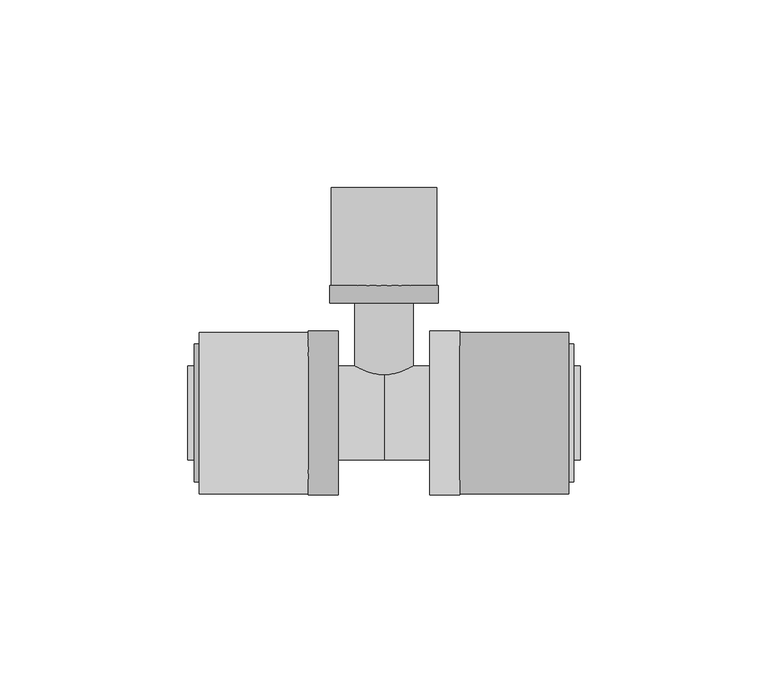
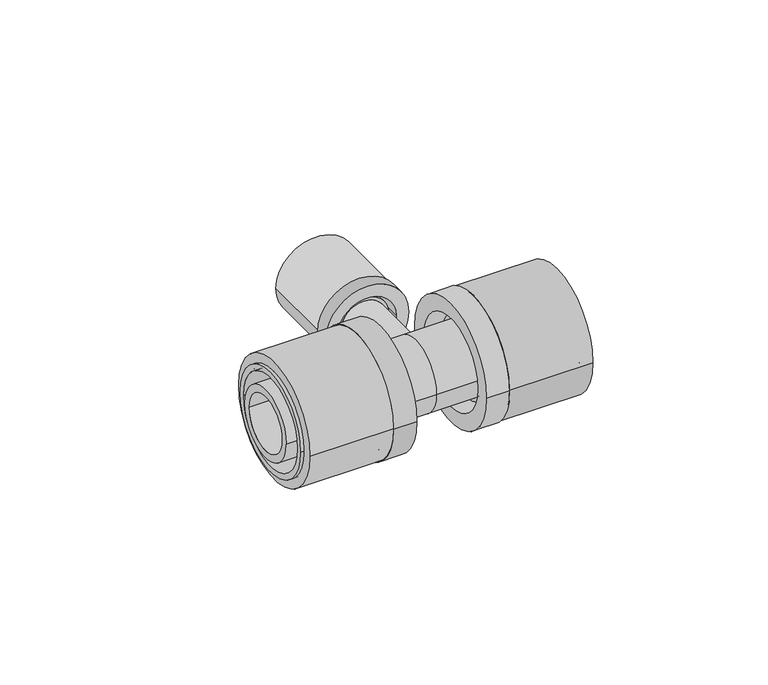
"""IFC4 building model written with IfcOpenShell, lengths in millimetres: pipe fitting geometry, FASTLOC_T-piece_LX : FSL T-Piece LX CZ."""

import ifcopenshell
import ifcopenshell.guid

model = None  # the IFC model being written
_history = None  # IfcOwnerHistory: only IFC2X3 demands one
_inside = {}  # id of a spatial element -> (the spatial element, [elements in it])
_under = {}  # id of a project, library or spatial element -> (it, [spatial elements below it])
_declared = {}  # id of a project -> (the project, [libraries it declares])
_typed = {}  # id of a type object -> (the type object, [elements of that type])
_made_of = {}  # id of a material, layer set ... -> (it, [elements and type objects made of it])


def new_model(schema):
    """Start an empty IFC model of exactly this schema.

    Asked for "IFC4X3", IfcOpenShell would pick the latest addendum, in which some entities
    have other attributes; the version numbers below select the first issue.
    IFC2X3 requires an IfcOwnerHistory on every rooted entity: one is made here for all.
    """
    global model, _history
    if schema == "IFC4X3":
        model = ifcopenshell.file(schema_version=(4, 3, 0, 0))
    else:
        model = ifcopenshell.file(schema=schema)
    _inside.clear()
    _under.clear()
    _declared.clear()
    _typed.clear()
    _made_of.clear()
    _history = None
    if model.schema == "IFC2X3":
        org = make("IfcOrganization", Name="unknown")
        user = make(
            "IfcPersonAndOrganization",
            ThePerson=make("IfcPerson", FamilyName="unknown"),
            TheOrganization=org,
        )
        app = make(
            "IfcApplication",
            ApplicationDeveloper=org,
            Version="unknown",
            ApplicationFullName="unknown",
            ApplicationIdentifier="unknown",
        )
        _history = make(
            "IfcOwnerHistory",
            OwningUser=user,
            OwningApplication=app,
            ChangeAction="ADDED",
            CreationDate=0,
        )
    return model


def make(cls, **values):
    """One entity of the class cls with the attributes given. An attribute that is None is left unset."""
    return model.create_entity(
        cls, **{name: value for name, value in values.items() if value is not None}
    )


def rooted(cls, **values):
    """An entity with a GlobalId (a new one), such as an element, a storey or a relation."""
    return make(cls, GlobalId=ifcopenshell.guid.new(), OwnerHistory=_history, **values)


def si_unit(unit_type, name, prefix=None):
    """IfcSIUnit, for example si_unit("LENGTHUNIT", "METRE", prefix="MILLI")."""
    return make("IfcSIUnit", UnitType=unit_type, Prefix=prefix, Name=name)


def assignment(units):
    """IfcUnitAssignment: the units of a project."""
    return None if units is None else make("IfcUnitAssignment", Units=units)


def point(xyz):
    """IfcCartesianPoint."""
    return None if xyz is None else make("IfcCartesianPoint", Coordinates=xyz)


def direction(xyz):
    """IfcDirection."""
    return None if xyz is None else make("IfcDirection", DirectionRatios=xyz)


def frame(location, z_axis=None, x_axis=None):
    """IfcAxis2Placement3D, a coordinate frame: its origin and axes. An axis left out is left unset."""
    return make(
        "IfcAxis2Placement3D",
        Location=point(location),
        Axis=direction(z_axis),
        RefDirection=direction(x_axis),
    )


def frame_2d(location, x_axis=None):
    """IfcAxis2Placement2D, a coordinate frame in the plane: its origin and x axis."""
    return make(
        "IfcAxis2Placement2D", Location=point(location), RefDirection=direction(x_axis)
    )


def origin():
    """The frame at (0, 0, 0) with its axes left unset."""
    return frame((0.0, 0.0, 0.0))


def origin_2d():
    """The frame at (0, 0) in the plane with its x axis left unset."""
    return frame_2d((0.0, 0.0))


def place(relative_to, where):
    """IfcLocalPlacement: puts the frame where relative to a parent placement (None: the world)."""
    return make(
        "IfcLocalPlacement", PlacementRelTo=relative_to, RelativePlacement=where
    )


def context(
    kind, dimensions, precision=None, world=None, true_north=None, identifier=None
):
    """IfcGeometricRepresentationContext, for example the 3D "Model" context."""
    return make(
        "IfcGeometricRepresentationContext",
        ContextIdentifier=identifier,
        ContextType=kind,
        CoordinateSpaceDimension=dimensions,
        Precision=precision,
        WorldCoordinateSystem=world,
        TrueNorth=true_north,
    )


def project(units=None, contexts=None):
    """IfcProject with its units and contexts."""
    return rooted(
        "IfcProject",
        Name="project",
        RepresentationContexts=contexts,
        UnitsInContext=assignment(units),
    )


def spatial(cls, under=None, at=None, **own):
    """A site, building, storey or space (cls), placed at a placement, below another one or the project."""
    s = rooted(cls, ObjectPlacement=at, **own)
    if under is not None:
        _under.setdefault(under.id(), (under, []))[1].append(s)
    return s


def polyline(points):
    """IfcPolyline through the points."""
    return make("IfcPolyline", Points=[point(p) for p in points])


def circle_curve(where, radius):
    """IfcCircle in the frame where."""
    return make("IfcCircle", Position=where, Radius=radius)


def trimmed(basis, trim1, trim2, sense, master):
    """IfcTrimmedCurve: the piece of a basis curve between two trims."""
    return make(
        "IfcTrimmedCurve",
        BasisCurve=basis,
        Trim1=trim1,
        Trim2=trim2,
        SenseAgreement=sense,
        MasterRepresentation=master,
    )


def segment(curve, same_sense, transition):
    """IfcCompositeCurveSegment."""
    return make(
        "IfcCompositeCurveSegment",
        Transition=transition,
        SameSense=same_sense,
        ParentCurve=curve,
    )


def composite_curve(segments, self_intersect=None):
    """IfcCompositeCurve: segments joined end to end."""
    return make("IfcCompositeCurve", Segments=segments, SelfIntersect=self_intersect)


def outline(outer, holes=None, kind="AREA"):
    """IfcArbitraryClosedProfileDef: a profile drawn as a closed curve; with holes, ...WithVoids."""
    if holes is None:
        return make("IfcArbitraryClosedProfileDef", ProfileType=kind, OuterCurve=outer)
    return make(
        "IfcArbitraryProfileDefWithVoids",
        ProfileType=kind,
        OuterCurve=outer,
        InnerCurves=holes,
    )


def extrude(swept, where, along, depth):
    """IfcExtrudedAreaSolid: the profile swept, set in the frame where, extruded along a direction by depth."""
    return make(
        "IfcExtrudedAreaSolid",
        SweptArea=swept,
        Position=where,
        ExtrudedDirection=direction(along),
        Depth=depth,
    )


def shape(context_of_items, identifier, shape_type, items):
    """IfcShapeRepresentation: the items that make up one representation, for example the "Body"."""
    return make(
        "IfcShapeRepresentation",
        ContextOfItems=context_of_items,
        RepresentationIdentifier=identifier,
        RepresentationType=shape_type,
        Items=items,
    )


def source(mapping_origin, context_of_items, identifier, shape_type, items):
    """IfcRepresentationMap: a shape defined once, which mapped items show again and again."""
    return make(
        "IfcRepresentationMap",
        MappingOrigin=mapping_origin,
        MappedRepresentation=shape(context_of_items, identifier, shape_type, items),
    )


def transform(
    local_origin,
    x_axis=None,
    y_axis=None,
    z_axis=None,
    scale=None,
    scale2=None,
    scale3=None,
    uniform=True,
):
    """IfcCartesianTransformationOperator3D, or its non-uniform kind. x_axis, y_axis, z_axis: its Axis1, 2, 3."""
    if uniform:
        return make(
            "IfcCartesianTransformationOperator3D",
            Axis1=direction(x_axis),
            Axis2=direction(y_axis),
            LocalOrigin=point(local_origin),
            Scale=scale,
            Axis3=direction(z_axis),
        )
    return make(
        "IfcCartesianTransformationOperator3DnonUniform",
        Axis1=direction(x_axis),
        Axis2=direction(y_axis),
        LocalOrigin=point(local_origin),
        Scale=scale,
        Axis3=direction(z_axis),
        Scale2=scale2,
        Scale3=scale3,
    )


def mapped(mapping_source, mapping_target):
    """IfcMappedItem: shows the shape of a source again, moved by a transform."""
    return make(
        "IfcMappedItem", MappingSource=mapping_source, MappingTarget=mapping_target
    )


def made_of(thing, what):
    """Note that an element or type object is made of a material, layer set ...; save() writes the relation."""
    if what is not None:
        _made_of.setdefault(what.id(), (what, []))[1].append(thing)
    return thing


def element(
    cls,
    number,
    at=None,
    inside=None,
    cuts=None,
    type_object=None,
    material=None,
    context=None,
    identifier="Body",
    shape_type=None,
    held_by="IfcProductDefinitionShape",
    body=None,
    shapes=None,
    **own,
):
    """One element of the class cls, such as IfcWall. Its Tag is "e" and its number.

    at: its placement. inside: the storey or other place that contains it. cuts: it is an
    opening in that element (IfcRelVoidsElement). A single representation is given by context,
    identifier, shape_type and body (its items); several are given by shapes. held_by: the class
    of the entity that holds the representations. save() writes the other relations.
    """
    e = rooted(cls, Tag="e%d" % number, ObjectPlacement=at, **own)
    if body is not None:
        shapes = [shape(context, identifier, shape_type, body)]
    if shapes is not None:
        e.Representation = make(held_by, Representations=shapes)
    if inside is not None:
        _inside.setdefault(inside.id(), (inside, []))[1].append(e)
    if cuts is not None:
        rooted(
            "IfcRelVoidsElement", RelatingBuildingElement=cuts, RelatedOpeningElement=e
        )
    if type_object is not None:
        _typed.setdefault(type_object.id(), (type_object, []))[1].append(e)
    return made_of(e, material)


def aggregate(whole, parts):
    """IfcRelAggregates: a whole, such as a stair, and the parts it consists of."""
    return rooted("IfcRelAggregates", RelatingObject=whole, RelatedObjects=parts)


def save(model, path):
    """Write the relations noted so far, then the file.

    IfcRelAggregates (storeys below a building ...), IfcRelContainedInSpatialStructure (elements
    in a storey), IfcRelDefinesByType, IfcRelAssociatesMaterial and IfcRelDeclares: one each for
    every whole, place, type object, material and project.
    """
    for whole, parts in _under.values():
        aggregate(whole, parts)
    for where, things in _inside.values():
        rooted(
            "IfcRelContainedInSpatialStructure",
            RelatedElements=things,
            RelatingStructure=where,
        )
    for kind, things in _typed.values():
        rooted("IfcRelDefinesByType", RelatedObjects=things, RelatingType=kind)
    for what, things in _made_of.values():
        rooted("IfcRelAssociatesMaterial", RelatedObjects=things, RelatingMaterial=what)
    for by, libraries in _declared.values():
        rooted("IfcRelDeclares", RelatingContext=by, RelatedDefinitions=libraries)
    model.write(path)


def plane_surface(at):
    """IfcPlane: the flat surface through the origin of the frame at, square to its z axis."""
    return make("IfcPlane", Position=at)


def cylinder_surface(at, radius):
    """IfcCylindricalSurface: all points at the distance radius from the z axis of the frame at."""
    return make("IfcCylindricalSurface", Position=at, Radius=radius)


def revolved_surface(curve, axis_point, axis_direction):
    """IfcSurfaceOfRevolution: the curve turned about the line through axis_point along axis_direction."""
    return make(
        "IfcSurfaceOfRevolution",
        SweptCurve=make("IfcArbitraryOpenProfileDef", ProfileType="CURVE", Curve=curve),
        AxisPosition=make("IfcAxis1Placement", Location=point(axis_point), Axis=direction(axis_direction)),
    )


def advanced_brep(points, edges, surfaces, faces):
    """IfcAdvancedBrep: a solid bounded by faces that lie on surfaces and meet in shared edges.

    An edge is (start, end): straight between two places in points (the first is 0);
    or (start, end, curve); or (start, end, curve, False) where it runs against its curve.
    A face is (place in surfaces, loops), or (place, loops, False) where it looks against
    its surface's normal. A loop lists edges by number (the first is 1), with a minus sign
    where the edge is run from its end to its start. The first loop is the outer one.
    """
    corners = [point(p) for p in points]
    vertices = [make("IfcVertexPoint", VertexGeometry=c) for c in corners]
    made = []
    for start, end, *more in edges:
        made.append(
            make(
                "IfcEdgeCurve",
                EdgeStart=vertices[start],
                EdgeEnd=vertices[end],
                EdgeGeometry=more[0] if more else make("IfcPolyline", Points=[corners[start], corners[end]]),
                SameSense=more[1] if len(more) > 1 else True,
            )
        )
    hull = []
    for where, loops, *sense in faces:
        bounds = []
        for j, loop in enumerate(loops):
            ring = [make("IfcOrientedEdge", EdgeElement=made[abs(k) - 1], Orientation=k > 0) for k in loop]
            bounds.append(
                make(
                    "IfcFaceOuterBound" if j == 0 else "IfcFaceBound",
                    Bound=make("IfcEdgeLoop", EdgeList=ring),
                    Orientation=True,
                )
            )
        hull.append(make("IfcAdvancedFace", Bounds=bounds, FaceSurface=surfaces[where], SameSense=sense[0] if sense else True))
    return make("IfcAdvancedBrep", Outer=make("IfcClosedShell", CfsFaces=hull))


def pipe_fitting_7435f538(model_context):
    return source(origin(), model_context, "Body", "SolidModel", [
        extrude(outline(composite_curve([segment(trimmed(circle_curve(origin_2d(), 21.5), [point((-21.5, 0.0))], [point((21.5, 0.0))], False, "CARTESIAN"), True, "CONTINUOUS"), segment(trimmed(circle_curve(origin_2d(), 21.5), [point((21.5, 0.0))], [point((-21.5, 0.0))], False, "CARTESIAN"), True, "CONTINUOUS")], self_intersect=False), holes=[composite_curve([segment(trimmed(circle_curve(origin_2d(), 16.85), [point((-16.85, 0.0))], [point((16.85, 0.0))], True, "CARTESIAN"), True, "CONTINUOUS"), segment(trimmed(circle_curve(origin_2d(), 16.85), [point((16.85, 0.0))], [point((-16.85, 0.0))], True, "CARTESIAN"), True, "CONTINUOUS")], self_intersect=False)]), frame((20.2, 0.0, 0.0), z_axis=(1.0, 0.0, 0.0), x_axis=(0.0, 1.0, 0.0)), (0.0, 0.0, 1.0), 29.0),
        advanced_brep(
        [(20.2, 21.8, 0.0), (20.2, -21.8, 0.0), (12.2, -21.8, 0.0), (12.2, 21.8, 0.0), (50.5, 18.35, 0.0), (50.5, -18.35, 0.0), (20.2, -18.35, 0.0), (20.2, 18.35, 0.0), (12.2, 16.2, 0.0), (12.2, -16.2, 0.0), (50.5, -16.2, 0.0), (50.5, 16.2, 0.0)],
        [
            (0, 1, circle_curve(frame((20.2, 0.0, 0.0), z_axis=(-1.0, 0.0, 0.0), x_axis=(0.0, -1.0, 0.0)), 21.8)),
            (1, 2),
            (2, 3, circle_curve(frame((12.2, 0.0, 0.0), z_axis=(1.0, 0.0, 0.0), x_axis=(0.0, -1.0, 0.0)), 21.8)),
            (3, 0),
            (4, 5, circle_curve(frame((50.5, 0.0, 0.0), z_axis=(-1.0, 0.0, 0.0), x_axis=(0.0, -1.0, 0.0)), 18.35)),
            (5, 6),
            (6, 7, circle_curve(frame((20.2, 0.0, 0.0), z_axis=(1.0, 0.0, 0.0), x_axis=(0.0, -1.0, 0.0)), 18.35)),
            (7, 4),
            (8, 9, circle_curve(frame((12.2, 0.0, 0.0), z_axis=(-1.0, 0.0, 0.0), x_axis=(0.0, -1.0, 0.0)), 16.2)),
            (9, 10),
            (10, 11, circle_curve(frame((50.5, 0.0, 0.0), z_axis=(1.0, 0.0, 0.0), x_axis=(0.0, -1.0, 0.0)), 16.2)),
            (11, 8),
            (1, 0, circle_curve(frame((20.2, 0.0, 0.0), z_axis=(-1.0, 0.0, 0.0), x_axis=(0.0, 1.0, 0.0)), 21.8)),
            (3, 2, circle_curve(frame((12.2, 0.0, 0.0), z_axis=(1.0, 0.0, 0.0), x_axis=(0.0, 1.0, 0.0)), 21.8)),
            (6, 7, circle_curve(frame((20.2, 0.0, 0.0), z_axis=(-1.0, 0.0, 0.0), x_axis=(0.0, 1.0, 0.0)), 18.35)),
            (5, 4, circle_curve(frame((50.5, 0.0, 0.0), z_axis=(-1.0, 0.0, 0.0), x_axis=(0.0, 1.0, 0.0)), 18.35)),
            (10, 11, circle_curve(frame((50.5, 0.0, 0.0), z_axis=(-1.0, 0.0, 0.0), x_axis=(0.0, 1.0, 0.0)), 16.2)),
            (9, 8, circle_curve(frame((12.2, 0.0, 0.0), z_axis=(-1.0, 0.0, 0.0), x_axis=(0.0, 1.0, 0.0)), 16.2)),
        ],
        [
            cylinder_surface(frame((12.2, 0.0, 0.0), z_axis=(1.0, 0.0, 0.0), x_axis=(0.0, -1.0, 0.0)), 21.8),
            cylinder_surface(frame((12.2, 0.0, 0.0), z_axis=(1.0, 0.0, 0.0), x_axis=(0.0, -1.0, 0.0)), 18.35),
            revolved_surface(polyline([(50.5, -16.2, 0.0), (12.2, -16.2, 0.0)]), (12.2, 0.0, 0.0), (1.0, 0.0, 0.0)),
            cylinder_surface(frame((12.2, 0.0, 0.0), z_axis=(1.0, 0.0, 0.0), x_axis=(0.0, 1.0, 0.0)), 21.8),
            plane_surface(frame((20.2, 0.0, 0.0), z_axis=(1.0, 0.0, 0.0), x_axis=(0.0, 1.0, 0.0))),
            cylinder_surface(frame((12.2, 0.0, 0.0), z_axis=(1.0, 0.0, 0.0), x_axis=(0.0, 1.0, 0.0)), 18.35),
            plane_surface(frame((50.5, 0.0, 0.0), z_axis=(1.0, 0.0, 0.0), x_axis=(0.0, 1.0, 0.0))),
            revolved_surface(polyline([(50.5, 16.2, 0.0), (12.2, 16.2, 0.0)]), (12.2, 0.0, 0.0), (1.0, 0.0, 0.0)),
            plane_surface(frame((12.2, 0.0, 0.0), z_axis=(-1.0, 0.0, 0.0), x_axis=(0.0, 1.0, 0.0))),
        ],
        [
            (0, [[1, 2, 3, 4]]),
            (1, [[5, 6, 7, 8]]),
            (2, [[9, 10, 11, 12]]),
            (3, [[13, -4, 14, -2]]),
            (4, [[-13, -1], [15, -7]]),
            (5, [[16, -8, -15, -6]]),
            (6, [[-16, -5], [17, -11]]),
            (7, [[18, -12, -17, -10]]),
            (8, [[-14, -3], [-18, -9]]),
        ],
    ),
        extrude(outline(composite_curve([segment(trimmed(circle_curve(origin_2d(), 21.5), [point((21.5, 0.0))], [point((-21.5, 0.0))], False, "CARTESIAN"), True, "CONTINUOUS"), segment(trimmed(circle_curve(origin_2d(), 21.5), [point((-21.5, 0.0))], [point((21.5, 0.0))], False, "CARTESIAN"), True, "CONTINUOUS")], self_intersect=False), holes=[composite_curve([segment(trimmed(circle_curve(origin_2d(), 16.85), [point((16.85, 0.0))], [point((-16.85, 0.0))], True, "CARTESIAN"), True, "CONTINUOUS"), segment(trimmed(circle_curve(origin_2d(), 16.85), [point((-16.85, 0.0))], [point((16.85, 0.0))], True, "CARTESIAN"), True, "CONTINUOUS")], self_intersect=False)]), frame((-49.2, 0.0, 0.0), z_axis=(1.0, 0.0, 0.0), x_axis=(0.0, 1.0, 0.0)), (0.0, 0.0, 1.0), 29.0),
        advanced_brep(
        [(-20.2, -21.8, 0.0), (-20.2, 21.8, 0.0), (-12.2, 21.8, 0.0), (-12.2, -21.8, 0.0), (-50.5, -18.35, 0.0), (-50.5, 18.35, 0.0), (-20.2, 18.35, 0.0), (-20.2, -18.35, 0.0), (-12.2, -16.2, 0.0), (-12.2, 16.2, 0.0), (-50.5, 16.2, 0.0), (-50.5, -16.2, 0.0)],
        [
            (0, 1, circle_curve(frame((-20.2, 0.0, 0.0), z_axis=(1.0, 0.0, 0.0), x_axis=(0.0, 1.0, 0.0)), 21.8)),
            (1, 2),
            (2, 3, circle_curve(frame((-12.2, 0.0, 0.0), z_axis=(-1.0, 0.0, 0.0), x_axis=(0.0, 1.0, 0.0)), 21.8)),
            (3, 0),
            (4, 5, circle_curve(frame((-50.5, 0.0, 0.0), z_axis=(1.0, 0.0, 0.0), x_axis=(0.0, 1.0, 0.0)), 18.35)),
            (5, 6),
            (6, 7, circle_curve(frame((-20.2, 0.0, 0.0), z_axis=(-1.0, 0.0, 0.0), x_axis=(0.0, 1.0, 0.0)), 18.35)),
            (7, 4),
            (8, 9, circle_curve(frame((-12.2, 0.0, 0.0), z_axis=(1.0, 0.0, 0.0), x_axis=(0.0, 1.0, 0.0)), 16.2)),
            (9, 10),
            (10, 11, circle_curve(frame((-50.5, 0.0, 0.0), z_axis=(-1.0, 0.0, 0.0), x_axis=(0.0, 1.0, 0.0)), 16.2)),
            (11, 8),
            (1, 0, circle_curve(frame((-20.2, 0.0, 0.0), z_axis=(1.0, 0.0, 0.0), x_axis=(0.0, -1.0, 0.0)), 21.8)),
            (3, 2, circle_curve(frame((-12.2, 0.0, 0.0), z_axis=(-1.0, 0.0, 0.0), x_axis=(0.0, -1.0, 0.0)), 21.8)),
            (6, 7, circle_curve(frame((-20.2, 0.0, 0.0), z_axis=(1.0, 0.0, 0.0), x_axis=(0.0, -1.0, 0.0)), 18.35)),
            (5, 4, circle_curve(frame((-50.5, 0.0, 0.0), z_axis=(1.0, 0.0, 0.0), x_axis=(0.0, -1.0, 0.0)), 18.35)),
            (10, 11, circle_curve(frame((-50.5, 0.0, 0.0), z_axis=(1.0, 0.0, 0.0), x_axis=(0.0, -1.0, 0.0)), 16.2)),
            (9, 8, circle_curve(frame((-12.2, 0.0, 0.0), z_axis=(1.0, 0.0, 0.0), x_axis=(0.0, -1.0, 0.0)), 16.2)),
        ],
        [
            cylinder_surface(frame((-12.2, 0.0, 0.0), z_axis=(-1.0, 0.0, 0.0), x_axis=(0.0, 1.0, 0.0)), 21.8),
            cylinder_surface(frame((-12.2, 0.0, 0.0), z_axis=(-1.0, 0.0, 0.0), x_axis=(0.0, 1.0, 0.0)), 18.35),
            revolved_surface(polyline([(-50.5, 16.2, 0.0), (-12.2, 16.2, 0.0)]), (-12.2, 0.0, 0.0), (-1.0, 0.0, 0.0)),
            cylinder_surface(frame((-12.2, 0.0, 0.0), z_axis=(-1.0, 0.0, 0.0), x_axis=(0.0, -1.0, 0.0)), 21.8),
            plane_surface(frame((-20.2, 0.0, 0.0), z_axis=(-1.0, 0.0, 0.0), x_axis=(0.0, -1.0, 0.0))),
            cylinder_surface(frame((-12.2, 0.0, 0.0), z_axis=(-1.0, 0.0, 0.0), x_axis=(0.0, -1.0, 0.0)), 18.35),
            plane_surface(frame((-50.5, 0.0, 0.0), z_axis=(-1.0, 0.0, 0.0), x_axis=(0.0, -1.0, 0.0))),
            revolved_surface(polyline([(-50.5, -16.2, 0.0), (-12.2, -16.2, 0.0)]), (-12.2, 0.0, 0.0), (-1.0, 0.0, 0.0)),
            plane_surface(frame((-12.2, 0.0, 0.0), z_axis=(1.0, 0.0, 0.0), x_axis=(0.0, -1.0, 0.0))),
        ],
        [
            (0, [[1, 2, 3, 4]]),
            (1, [[5, 6, 7, 8]]),
            (2, [[9, 10, 11, 12]]),
            (3, [[13, -4, 14, -2]]),
            (4, [[-13, -1], [15, -7]]),
            (5, [[16, -8, -15, -6]]),
            (6, [[-16, -5], [17, -11]]),
            (7, [[18, -12, -17, -10]]),
            (8, [[-14, -3], [-18, -9]]),
        ],
    ),
        extrude(outline(composite_curve([segment(trimmed(circle_curve(origin_2d(), 14.0), [point((0.0, 14.0))], [point((0.0, -14.0))], False, "CARTESIAN"), True, "CONTINUOUS"), segment(trimmed(circle_curve(origin_2d(), 14.0), [point((0.0, -14.0))], [point((0.0, 14.0))], False, "CARTESIAN"), True, "CONTINUOUS")], self_intersect=False), holes=[composite_curve([segment(trimmed(circle_curve(origin_2d(), 10.7), [point((0.0, 10.7))], [point((0.0, -10.7))], True, "CARTESIAN"), True, "CONTINUOUS"), segment(trimmed(circle_curve(origin_2d(), 10.7), [point((0.0, -10.7))], [point((0.0, 10.7))], True, "CARTESIAN"), True, "CONTINUOUS")], self_intersect=False)]), frame((0.0, 34.0, 0.0), z_axis=(0.0, 1.0, 0.0), x_axis=(0.0, 0.0, 1.0)), (0.0, 0.0, 1.0), 26.0),
        advanced_brep(
        [(-14.5, 34.0, 0.0), (14.5, 34.0, 0.0), (14.5, 29.3, 0.0), (-14.5, 29.3, 0.0), (-11.85, 51.0, 0.0), (11.85, 51.0, 0.0), (11.85, 34.0, 0.0), (-11.85, 34.0, 0.0), (-10.15, 29.3, 0.0), (10.15, 29.3, 0.0), (10.15, 51.0, 0.0), (-10.15, 51.0, 0.0)],
        [
            (0, 1, circle_curve(frame((0.0, 34.0, 0.0), z_axis=(0.0, -1.0, 0.0), x_axis=(1.0, 0.0, 0.0)), 14.5)),
            (1, 2),
            (2, 3, circle_curve(frame((0.0, 29.3, 0.0), z_axis=(0.0, 1.0, 0.0), x_axis=(1.0, 0.0, 0.0)), 14.5)),
            (3, 0),
            (4, 5, circle_curve(frame((0.0, 51.0, 0.0), z_axis=(0.0, -1.0, 0.0), x_axis=(1.0, 0.0, 0.0)), 11.85)),
            (5, 6),
            (6, 7, circle_curve(frame((0.0, 34.0, 0.0), z_axis=(0.0, 1.0, 0.0), x_axis=(1.0, 0.0, 0.0)), 11.85)),
            (7, 4),
            (8, 9, circle_curve(frame((0.0, 29.3, 0.0), z_axis=(0.0, -1.0, 0.0), x_axis=(1.0, 0.0, 0.0)), 10.15)),
            (9, 10),
            (10, 11, circle_curve(frame((0.0, 51.0, 0.0), z_axis=(0.0, 1.0, 0.0), x_axis=(1.0, 0.0, 0.0)), 10.15)),
            (11, 8),
            (1, 0, circle_curve(frame((0.0, 34.0, 0.0), z_axis=(0.0, -1.0, 0.0), x_axis=(-1.0, 0.0, 0.0)), 14.5)),
            (3, 2, circle_curve(frame((0.0, 29.3, 0.0), z_axis=(0.0, 1.0, 0.0), x_axis=(-1.0, 0.0, 0.0)), 14.5)),
            (6, 7, circle_curve(frame((0.0, 34.0, 0.0), z_axis=(0.0, -1.0, 0.0), x_axis=(-1.0, 0.0, 0.0)), 11.85)),
            (5, 4, circle_curve(frame((0.0, 51.0, 0.0), z_axis=(0.0, -1.0, 0.0), x_axis=(-1.0, 0.0, 0.0)), 11.85)),
            (10, 11, circle_curve(frame((0.0, 51.0, 0.0), z_axis=(0.0, -1.0, 0.0), x_axis=(-1.0, 0.0, 0.0)), 10.15)),
            (9, 8, circle_curve(frame((0.0, 29.3, 0.0), z_axis=(0.0, -1.0, 0.0), x_axis=(-1.0, 0.0, 0.0)), 10.15)),
        ],
        [
            cylinder_surface(frame((0.0, 29.3, 0.0), z_axis=(0.0, 1.0, 0.0), x_axis=(1.0, 0.0, 0.0)), 14.5),
            cylinder_surface(frame((0.0, 29.3, 0.0), z_axis=(0.0, 1.0, 0.0), x_axis=(1.0, 0.0, 0.0)), 11.85),
            revolved_surface(polyline([(10.15, 51.0, 0.0), (10.15, 29.3, 0.0)]), (0.0, 29.3, 0.0), (0.0, 1.0, 0.0)),
            cylinder_surface(frame((0.0, 29.3, 0.0), z_axis=(0.0, 1.0, 0.0), x_axis=(-1.0, 0.0, 0.0)), 14.5),
            plane_surface(frame((0.0, 34.0, 0.0), z_axis=(0.0, 1.0, 0.0), x_axis=(-1.0, 0.0, 0.0))),
            cylinder_surface(frame((0.0, 29.3, 0.0), z_axis=(0.0, 1.0, 0.0), x_axis=(-1.0, 0.0, 0.0)), 11.85),
            plane_surface(frame((0.0, 51.0, 0.0), z_axis=(0.0, 1.0, 0.0), x_axis=(-1.0, 0.0, 0.0))),
            revolved_surface(polyline([(-10.15, 51.0, 0.0), (-10.15, 29.3, 0.0)]), (0.0, 29.3, 0.0), (0.0, 1.0, 0.0)),
            plane_surface(frame((0.0, 29.3, 0.0), z_axis=(0.0, -1.0, 0.0), x_axis=(-1.0, 0.0, 0.0))),
        ],
        [
            (0, [[1, 2, 3, 4]]),
            (1, [[5, 6, 7, 8]]),
            (2, [[9, 10, 11, 12]]),
            (3, [[13, -4, 14, -2]]),
            (4, [[-13, -1], [15, -7]]),
            (5, [[16, -8, -15, -6]]),
            (6, [[-16, -5], [17, -11]]),
            (7, [[18, -12, -17, -10]]),
            (8, [[-14, -3], [-18, -9]]),
        ],
    ),
        advanced_brep(
        [(0.0, 12.5, 0.0), (0.0, -12.5, 0.0), (-17.2, -12.5, 0.0), (-17.2, 12.5, 0.0), (17.2, 12.5, 0.0), (17.2, -12.5, 0.0), (20.2, 14.1, 0.0), (20.2, -14.1, 0.0), (17.2, -14.1, 0.0), (17.2, 14.1, 0.0), (52.2, 12.5, 0.0), (52.2, -12.5, 0.0), (20.2, -12.5, 0.0), (20.2, 12.5, 0.0), (-20.2, 12.5, 0.0), (-20.2, -12.5, 0.0), (-52.2, -12.5, 0.0), (-52.2, 12.5, 0.0), (-17.2, 16.0, 0.0), (-17.2, -16.0, 0.0), (-20.2, -16.0, 0.0), (-20.2, 16.0, 0.0), (52.2, -9.85, 0.0), (52.2, 9.85, 0.0), (-52.2, 9.85, 0.0), (-52.2, -9.85, 0.0), (0.0, 9.85, 0.0), (0.0, -9.85, 0.0)],
        [
            (0, 1, circle_curve(frame((0.0, 0.0, 0.0), z_axis=(-1.0, 0.0, 0.0), x_axis=(0.0, -1.0, 0.0)), 12.5)),
            (1, 2),
            (2, 3, circle_curve(frame((-17.2, 0.0, 0.0), z_axis=(1.0, 0.0, 0.0), x_axis=(0.0, -1.0, 0.0)), 12.5)),
            (3, 0),
            (4, 5, circle_curve(frame((17.2, 0.0, 0.0), z_axis=(-1.0, 0.0, 0.0), x_axis=(0.0, -1.0, 0.0)), 12.5)),
            (5, 1),
            (0, 4),
            (6, 7, circle_curve(frame((20.2, 0.0, 0.0), z_axis=(-1.0, 0.0, 0.0), x_axis=(0.0, -1.0, 0.0)), 14.1)),
            (7, 8),
            (8, 9, circle_curve(frame((17.2, 0.0, 0.0), z_axis=(1.0, 0.0, 0.0), x_axis=(0.0, -1.0, 0.0)), 14.1)),
            (9, 6),
            (10, 11, circle_curve(frame((52.2, 0.0, 0.0), z_axis=(-1.0, 0.0, 0.0), x_axis=(0.0, -1.0, 0.0)), 12.5)),
            (11, 12),
            (12, 13, circle_curve(frame((20.2, 0.0, 0.0), z_axis=(1.0, 0.0, 0.0), x_axis=(0.0, -1.0, 0.0)), 12.5)),
            (13, 10),
            (14, 15, circle_curve(frame((-20.2, 0.0, 0.0), z_axis=(-1.0, 0.0, 0.0), x_axis=(0.0, -1.0, 0.0)), 12.5)),
            (15, 16),
            (16, 17, circle_curve(frame((-52.2, 0.0, 0.0), z_axis=(1.0, 0.0, 0.0), x_axis=(0.0, -1.0, 0.0)), 12.5)),
            (17, 14),
            (18, 19, circle_curve(frame((-17.2, 0.0, 0.0), z_axis=(-1.0, 0.0, 0.0), x_axis=(0.0, -1.0, 0.0)), 16.0)),
            (19, 20),
            (20, 21, circle_curve(frame((-20.2, 0.0, 0.0), z_axis=(1.0, 0.0, 0.0), x_axis=(0.0, -1.0, 0.0)), 16.0)),
            (21, 18),
            (18, 19, circle_curve(frame((-17.2, 0.0, 0.0), z_axis=(1.0, 0.0, 0.0), x_axis=(0.0, 1.0, 0.0)), 16.0)),
            (2, 3, circle_curve(frame((-17.2, 0.0, 0.0), z_axis=(-1.0, 0.0, 0.0), x_axis=(0.0, 1.0, 0.0)), 12.5)),
            (1, 0, circle_curve(frame((0.0, 0.0, 0.0), z_axis=(-1.0, 0.0, 0.0), x_axis=(0.0, 1.0, 0.0)), 12.5)),
            (5, 4, circle_curve(frame((17.2, 0.0, 0.0), z_axis=(-1.0, 0.0, 0.0), x_axis=(0.0, 1.0, 0.0)), 12.5)),
            (8, 9, circle_curve(frame((17.2, 0.0, 0.0), z_axis=(-1.0, 0.0, 0.0), x_axis=(0.0, 1.0, 0.0)), 14.1)),
            (7, 6, circle_curve(frame((20.2, 0.0, 0.0), z_axis=(-1.0, 0.0, 0.0), x_axis=(0.0, 1.0, 0.0)), 14.1)),
            (12, 13, circle_curve(frame((20.2, 0.0, 0.0), z_axis=(-1.0, 0.0, 0.0), x_axis=(0.0, 1.0, 0.0)), 12.5)),
            (11, 10, circle_curve(frame((52.2, 0.0, 0.0), z_axis=(-1.0, 0.0, 0.0), x_axis=(0.0, 1.0, 0.0)), 12.5)),
            (22, 23, circle_curve(frame((52.2, 0.0, 0.0), z_axis=(-1.0, 0.0, 0.0), x_axis=(0.0, 1.0, 0.0)), 9.85)),
            (23, 22, circle_curve(frame((52.2, 0.0, 0.0), z_axis=(-1.0, 0.0, 0.0), x_axis=(0.0, -1.0, 0.0)), 9.85)),
            (16, 17, circle_curve(frame((-52.2, 0.0, 0.0), z_axis=(-1.0, 0.0, 0.0), x_axis=(0.0, 1.0, 0.0)), 12.5)),
            (24, 25, circle_curve(frame((-52.2, 0.0, 0.0), z_axis=(1.0, 0.0, 0.0), x_axis=(0.0, 1.0, 0.0)), 9.85)),
            (25, 24, circle_curve(frame((-52.2, 0.0, 0.0), z_axis=(1.0, 0.0, 0.0), x_axis=(0.0, -1.0, 0.0)), 9.85)),
            (15, 14, circle_curve(frame((-20.2, 0.0, 0.0), z_axis=(-1.0, 0.0, 0.0), x_axis=(0.0, 1.0, 0.0)), 12.5)),
            (20, 21, circle_curve(frame((-20.2, 0.0, 0.0), z_axis=(-1.0, 0.0, 0.0), x_axis=(0.0, 1.0, 0.0)), 16.0)),
            (26, 27, circle_curve(frame((0.0, 0.0, 0.0), z_axis=(-1.0, 0.0, 0.0), x_axis=(0.0, -1.0, 0.0)), 9.85)),
            (27, 22),
            (23, 26),
            (25, 27),
            (26, 24),
            (27, 26, circle_curve(frame((0.0, 0.0, 0.0), z_axis=(-1.0, 0.0, 0.0), x_axis=(0.0, 1.0, 0.0)), 9.85)),
        ],
        [
            cylinder_surface(frame((0.0, 0.0, 0.0), z_axis=(1.0, 0.0, 0.0), x_axis=(0.0, -1.0, 0.0)), 12.5),
            cylinder_surface(frame((0.0, 0.0, 0.0), z_axis=(1.0, 0.0, 0.0), x_axis=(0.0, -1.0, 0.0)), 14.1),
            cylinder_surface(frame((0.0, 0.0, 0.0), z_axis=(1.0, 0.0, 0.0), x_axis=(0.0, -1.0, 0.0)), 16.0),
            plane_surface(frame((-17.2, 0.0, 0.0), z_axis=(1.0, 0.0, 0.0), x_axis=(0.0, 1.0, 0.0))),
            cylinder_surface(frame((0.0, 0.0, 0.0), z_axis=(1.0, 0.0, 0.0), x_axis=(0.0, 1.0, 0.0)), 12.5),
            plane_surface(frame((17.2, 0.0, 0.0), z_axis=(-1.0, 0.0, 0.0), x_axis=(0.0, 1.0, 0.0))),
            cylinder_surface(frame((0.0, 0.0, 0.0), z_axis=(1.0, 0.0, 0.0), x_axis=(0.0, 1.0, 0.0)), 14.1),
            plane_surface(frame((20.2, 0.0, 0.0), z_axis=(1.0, 0.0, 0.0), x_axis=(0.0, 1.0, 0.0))),
            plane_surface(frame((52.2, 0.0, 0.0), z_axis=(1.0, 0.0, 0.0), x_axis=(0.0, 1.0, 0.0))),
            plane_surface(frame((-52.2, 0.0, 0.0), z_axis=(-1.0, 0.0, 0.0), x_axis=(0.0, 1.0, 0.0))),
            plane_surface(frame((-20.2, 0.0, 0.0), z_axis=(-1.0, 0.0, 0.0), x_axis=(0.0, 1.0, 0.0))),
            cylinder_surface(frame((0.0, 0.0, 0.0), z_axis=(1.0, 0.0, 0.0), x_axis=(0.0, 1.0, 0.0)), 16.0),
            revolved_surface(polyline([(52.2, -9.85, 0.0), (0.0, -9.85, 0.0)]), (0.0, 0.0, 0.0), (1.0, 0.0, 0.0)),
            revolved_surface(polyline([(0.0, -9.85, 0.0), (-52.2, -9.85, 0.0)]), (0.0, 0.0, 0.0), (1.0, 0.0, 0.0)),
            revolved_surface(polyline([(52.2, 9.85, 0.0), (0.0, 9.85, 0.0)]), (0.0, 0.0, 0.0), (1.0, 0.0, 0.0)),
            revolved_surface(polyline([(0.0, 9.85, 0.0), (-52.2, 9.85, 0.0)]), (0.0, 0.0, 0.0), (1.0, 0.0, 0.0)),
        ],
        [
            (0, [[1, 2, 3, 4]]),
            (0, [[5, 6, -1, 7]]),
            (1, [[8, 9, 10, 11]]),
            (0, [[12, 13, 14, 15]]),
            (0, [[16, 17, 18, 19]]),
            (2, [[20, 21, 22, 23]]),
            (3, [[24, -20], [25, -3]]),
            (4, [[26, -4, -25, -2]]),
            (4, [[27, -7, -26, -6]]),
            (5, [[28, -10], [-27, -5]]),
            (6, [[29, -11, -28, -9]]),
            (7, [[-29, -8], [30, -14]]),
            (4, [[31, -15, -30, -13]]),
            (8, [[-31, -12], [32, 33]]),
            (9, [[34, -18], [35, 36]]),
            (4, [[37, -19, -34, -17]]),
            (10, [[38, -22], [-37, -16]]),
            (11, [[-24, -23, -38, -21]]),
            (12, [[39, 40, -33, 41]]),
            (13, [[-36, 42, -39, 43]]),
            (14, [[44, -41, -32, -40]]),
            (15, [[-35, -43, -44, -42]]),
        ],
    ),
        advanced_brep(
        [(5.75, 51.4, 0.0), (-5.75, 51.4, 0.0), (-5.75, 0.0, 0.0), (5.75, 0.0, 0.0), (7.75, 0.0, 0.0), (-7.75, 0.0, 0.0), (-7.75, 31.33, 0.0), (7.75, 31.33, 0.0), (8.8, 31.33, 0.0), (-8.8, 31.33, 0.0), (-8.8, 34.0, 0.0), (8.8, 34.0, 0.0), (7.75, 34.0, 0.0), (-7.75, 34.0, 0.0), (-7.75, 51.4, 0.0), (7.75, 51.4, 0.0)],
        [
            (0, 1, circle_curve(frame((0.0, 51.4, 0.0), z_axis=(0.0, 1.0, 0.0), x_axis=(-1.0, 0.0, 0.0)), 5.75)),
            (1, 2),
            (2, 3, circle_curve(frame((0.0, 0.0, 0.0), z_axis=(0.0, -1.0, 0.0), x_axis=(-1.0, 0.0, 0.0)), 5.75)),
            (3, 0),
            (4, 5, circle_curve(frame((0.0, 0.0, 0.0), z_axis=(0.0, 1.0, 0.0), x_axis=(-1.0, 0.0, 0.0)), 7.75)),
            (5, 6),
            (6, 7, circle_curve(frame((0.0, 31.33, 0.0), z_axis=(0.0, -1.0, 0.0), x_axis=(-1.0, 0.0, 0.0)), 7.75)),
            (7, 4),
            (8, 9, circle_curve(frame((0.0, 31.33, 0.0), z_axis=(0.0, 1.0, 0.0), x_axis=(-1.0, 0.0, 0.0)), 8.8)),
            (9, 10),
            (10, 11, circle_curve(frame((0.0, 34.0, 0.0), z_axis=(0.0, -1.0, 0.0), x_axis=(-1.0, 0.0, 0.0)), 8.8)),
            (11, 8),
            (12, 13, circle_curve(frame((0.0, 34.0, 0.0), z_axis=(0.0, 1.0, 0.0), x_axis=(-1.0, 0.0, 0.0)), 7.75)),
            (13, 14),
            (14, 15, circle_curve(frame((0.0, 51.4, 0.0), z_axis=(0.0, -1.0, 0.0), x_axis=(-1.0, 0.0, 0.0)), 7.75)),
            (15, 12),
            (1, 0, circle_curve(frame((0.0, 51.4, 0.0), z_axis=(0.0, 1.0, 0.0), x_axis=(1.0, 0.0, 0.0)), 5.75)),
            (3, 2, circle_curve(frame((0.0, 0.0, 0.0), z_axis=(0.0, -1.0, 0.0), x_axis=(1.0, 0.0, 0.0)), 5.75)),
            (4, 5, circle_curve(frame((0.0, 0.0, 0.0), z_axis=(0.0, -1.0, 0.0), x_axis=(1.0, 0.0, 0.0)), 7.75)),
            (7, 6, circle_curve(frame((0.0, 31.33, 0.0), z_axis=(0.0, -1.0, 0.0), x_axis=(1.0, 0.0, 0.0)), 7.75)),
            (8, 9, circle_curve(frame((0.0, 31.33, 0.0), z_axis=(0.0, -1.0, 0.0), x_axis=(1.0, 0.0, 0.0)), 8.8)),
            (11, 10, circle_curve(frame((0.0, 34.0, 0.0), z_axis=(0.0, -1.0, 0.0), x_axis=(1.0, 0.0, 0.0)), 8.8)),
            (12, 13, circle_curve(frame((0.0, 34.0, 0.0), z_axis=(0.0, -1.0, 0.0), x_axis=(1.0, 0.0, 0.0)), 7.75)),
            (15, 14, circle_curve(frame((0.0, 51.4, 0.0), z_axis=(0.0, -1.0, 0.0), x_axis=(1.0, 0.0, 0.0)), 7.75)),
        ],
        [
            revolved_surface(polyline([(-5.75, 0.0, 0.0), (-5.75, 51.4, 0.0)]), (0.0, 0.0, 0.0), (0.0, -1.0, 0.0)),
            cylinder_surface(frame((0.0, 0.0, 0.0), z_axis=(0.0, -1.0, 0.0), x_axis=(-1.0, 0.0, 0.0)), 7.75),
            cylinder_surface(frame((0.0, 0.0, 0.0), z_axis=(0.0, -1.0, 0.0), x_axis=(-1.0, 0.0, 0.0)), 8.8),
            revolved_surface(polyline([(5.75, 0.0, 0.0), (5.75, 51.4, 0.0)]), (0.0, 0.0, 0.0), (0.0, -1.0, 0.0)),
            plane_surface(frame((0.0, 0.0, 0.0), z_axis=(0.0, -1.0, 0.0), x_axis=(1.0, 0.0, 0.0))),
            cylinder_surface(frame((0.0, 0.0, 0.0), z_axis=(0.0, -1.0, 0.0), x_axis=(1.0, 0.0, 0.0)), 7.75),
            plane_surface(frame((0.0, 31.33, 0.0), z_axis=(0.0, -1.0, 0.0), x_axis=(1.0, 0.0, 0.0))),
            cylinder_surface(frame((0.0, 0.0, 0.0), z_axis=(0.0, -1.0, 0.0), x_axis=(1.0, 0.0, 0.0)), 8.8),
            plane_surface(frame((0.0, 34.0, 0.0), z_axis=(0.0, 1.0, 0.0), x_axis=(1.0, 0.0, 0.0))),
            plane_surface(frame((0.0, 51.4, 0.0), z_axis=(0.0, 1.0, 0.0), x_axis=(1.0, 0.0, 0.0))),
        ],
        [
            (0, [[1, 2, 3, 4]]),
            (1, [[5, 6, 7, 8]]),
            (2, [[9, 10, 11, 12]]),
            (1, [[13, 14, 15, 16]]),
            (3, [[17, -4, 18, -2]]),
            (4, [[19, -5], [-18, -3]]),
            (5, [[-19, -8, 20, -6]]),
            (6, [[21, -9], [-20, -7]]),
            (7, [[-21, -12, 22, -10]]),
            (8, [[-22, -11], [23, -13]]),
            (5, [[-23, -16, 24, -14]]),
            (9, [[-24, -15], [-17, -1]]),
        ],
    ),
    ])


if __name__ == "__main__":
    model = new_model("IFC4")
    model_context = context("Model", 3, world=origin())
    ifc_project = project(units=[si_unit("LENGTHUNIT", "METRE", prefix="MILLI")], contexts=[model_context])
    site = spatial("IfcSite", under=ifc_project)
    building = spatial("IfcBuilding", under=site)
    placement = place(None, origin())
    pipe_fitting_shape = pipe_fitting_7435f538(model_context)
    element("IfcPipeFitting", 1, ObjectType="FASTLOC_T-piece_LX : FSL T-Piece LX CZ", at=placement, inside=building, context=model_context, shape_type="MappedRepresentation", body=[
        mapped(pipe_fitting_shape, transform((0.0, 0.0, 0.0), x_axis=(1.0, 0.0, 0.0), y_axis=(0.0, 1.0, 0.0), z_axis=(0.0, 0.0, 1.0))),
    ])
    save(model, "model.ifc")
